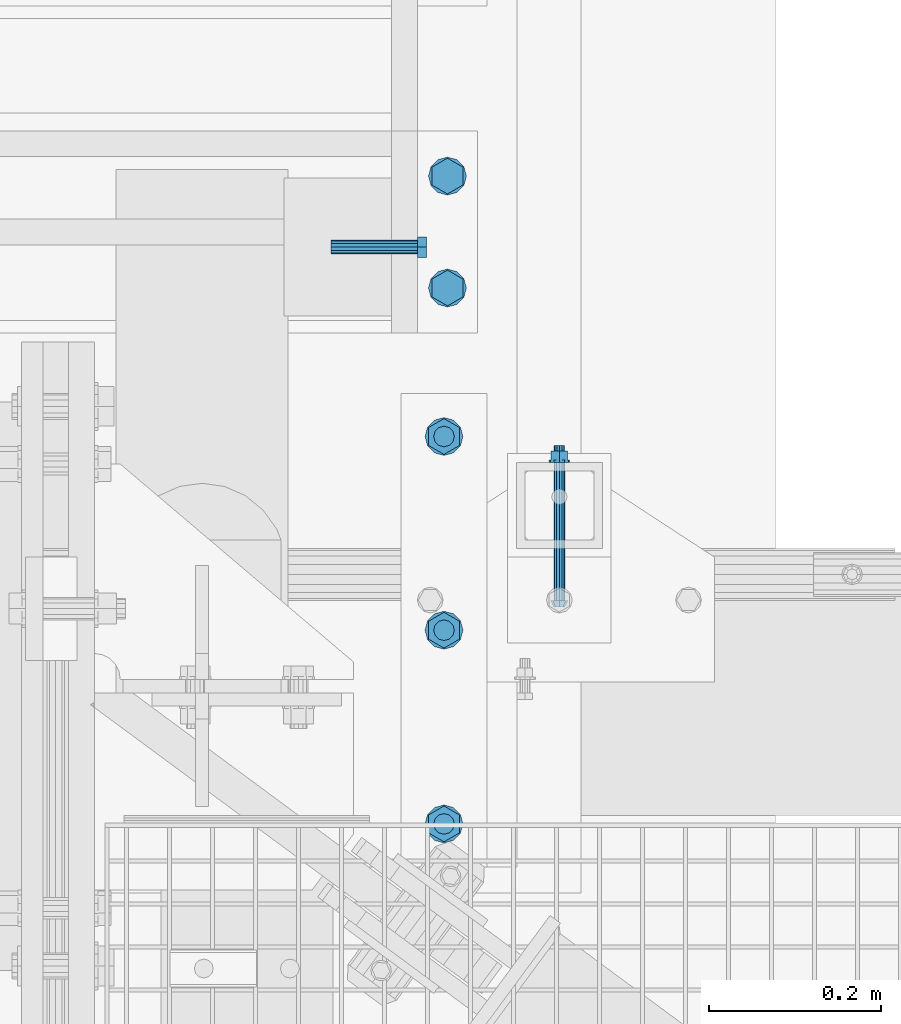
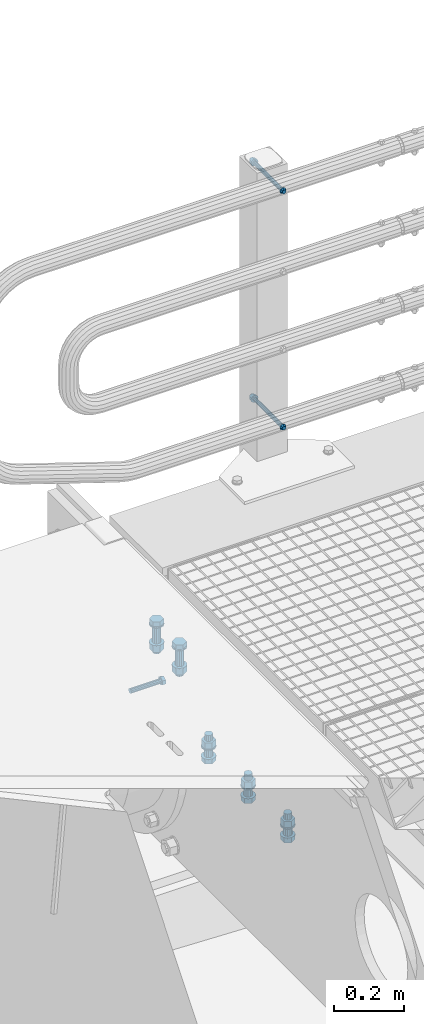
# One storey, part 34 of 1530: 5 mechanical fasteners.
"""IFC2X3 building model written with IfcOpenShell, lengths in millimetres."""

import ifcopenshell
import ifcopenshell.guid

model = None  # the IFC model being written
_history = None  # IfcOwnerHistory: only IFC2X3 demands one
_inside = {}  # id of a spatial element -> (the spatial element, [elements in it])
_under = {}  # id of a project, library or spatial element -> (it, [spatial elements below it])
_declared = {}  # id of a project -> (the project, [libraries it declares])
_typed = {}  # id of a type object -> (the type object, [elements of that type])
_made_of = {}  # id of a material, layer set ... -> (it, [elements and type objects made of it])


def new_model(schema):
    """Start an empty IFC model of exactly this schema.

    Asked for "IFC4X3", IfcOpenShell would pick the latest addendum, in which some entities
    have other attributes; the version numbers below select the first issue.
    IFC2X3 requires an IfcOwnerHistory on every rooted entity: one is made here for all.
    """
    global model, _history
    if schema == "IFC4X3":
        model = ifcopenshell.file(schema_version=(4, 3, 0, 0))
    else:
        model = ifcopenshell.file(schema=schema)
    _inside.clear()
    _under.clear()
    _declared.clear()
    _typed.clear()
    _made_of.clear()
    _history = None
    if model.schema == "IFC2X3":
        org = make("IfcOrganization", Name="unknown")
        user = make(
            "IfcPersonAndOrganization",
            ThePerson=make("IfcPerson", FamilyName="unknown"),
            TheOrganization=org,
        )
        app = make(
            "IfcApplication",
            ApplicationDeveloper=org,
            Version="unknown",
            ApplicationFullName="unknown",
            ApplicationIdentifier="unknown",
        )
        _history = make(
            "IfcOwnerHistory",
            OwningUser=user,
            OwningApplication=app,
            ChangeAction="ADDED",
            CreationDate=0,
        )
    return model


def make(cls, **values):
    """One entity of the class cls with the attributes given. An attribute that is None is left unset."""
    return model.create_entity(
        cls, **{name: value for name, value in values.items() if value is not None}
    )


def rooted(cls, **values):
    """An entity with a GlobalId (a new one), such as an element, a storey or a relation."""
    return make(cls, GlobalId=ifcopenshell.guid.new(), OwnerHistory=_history, **values)


def si_unit(unit_type, name, prefix=None):
    """IfcSIUnit, for example si_unit("LENGTHUNIT", "METRE", prefix="MILLI")."""
    return make("IfcSIUnit", UnitType=unit_type, Prefix=prefix, Name=name)


def assignment(units):
    """IfcUnitAssignment: the units of a project."""
    return None if units is None else make("IfcUnitAssignment", Units=units)


def point(xyz):
    """IfcCartesianPoint."""
    return None if xyz is None else make("IfcCartesianPoint", Coordinates=xyz)


def direction(xyz):
    """IfcDirection."""
    return None if xyz is None else make("IfcDirection", DirectionRatios=xyz)


def frame(location, z_axis=None, x_axis=None):
    """IfcAxis2Placement3D, a coordinate frame: its origin and axes. An axis left out is left unset."""
    return make(
        "IfcAxis2Placement3D",
        Location=point(location),
        Axis=direction(z_axis),
        RefDirection=direction(x_axis),
    )


def origin_with_axes():
    """The frame at (0, 0, 0) with the z axis (0, 0, 1) and the x axis (1, 0, 0) written out."""
    return frame((0.0, 0.0, 0.0), z_axis=(0.0, 0.0, 1.0), x_axis=(1.0, 0.0, 0.0))


def place(relative_to, where):
    """IfcLocalPlacement: puts the frame where relative to a parent placement (None: the world)."""
    return make(
        "IfcLocalPlacement", PlacementRelTo=relative_to, RelativePlacement=where
    )


def context(
    kind, dimensions, precision=None, world=None, true_north=None, identifier=None
):
    """IfcGeometricRepresentationContext, for example the 3D "Model" context."""
    return make(
        "IfcGeometricRepresentationContext",
        ContextIdentifier=identifier,
        ContextType=kind,
        CoordinateSpaceDimension=dimensions,
        Precision=precision,
        WorldCoordinateSystem=world,
        TrueNorth=true_north,
    )


def subcontext(parent, identifier, kind, view, scale=None):
    """IfcGeometricRepresentationSubContext, for example "Body" below "Model"."""
    return make(
        "IfcGeometricRepresentationSubContext",
        ContextIdentifier=identifier,
        ContextType=kind,
        ParentContext=parent,
        TargetScale=scale,
        TargetView=view,
    )


def project(units=None, contexts=None):
    """IfcProject with its units and contexts."""
    return rooted(
        "IfcProject",
        Name="project",
        RepresentationContexts=contexts,
        UnitsInContext=assignment(units),
    )


def spatial(cls, under=None, at=None, **own):
    """A site, building, storey or space (cls), placed at a placement, below another one or the project."""
    s = rooted(cls, ObjectPlacement=at, **own)
    if under is not None:
        _under.setdefault(under.id(), (under, []))[1].append(s)
    return s


def faces_of(points, faces, orient=None, outer=None):
    """IfcFace entities. A face is a list of loops; a loop is a list of indices into points, from 0.

    orient and outer hold one flag for each loop. By default every Orientation is true, the
    first loop of a face is its IfcFaceOuterBound and the others are IfcFaceBound.
    """
    made = []
    for i, loops in enumerate(faces):
        bounds = []
        for j, loop in enumerate(loops):
            is_outer = j == 0 if outer is None else outer[i][j]
            bounds.append(
                make(
                    "IfcFaceOuterBound" if is_outer else "IfcFaceBound",
                    Bound=make("IfcPolyLoop", Polygon=[points[k] for k in loop]),
                    Orientation=True if orient is None else orient[i][j],
                )
            )
        made.append(make("IfcFace", Bounds=bounds))
    return made


def faceted_brep(points, faces, orient=None, outer=None, voids=None):
    """IfcFacetedBrep: a solid bounded by flat faces; with voids (closed shells), ...WithVoids."""
    shared = [point(p) for p in points]
    hull = make("IfcClosedShell", CfsFaces=faces_of(shared, faces, orient, outer))
    if voids is None:
        return make("IfcFacetedBrep", Outer=hull)
    return make(
        "IfcFacetedBrepWithVoids",
        Outer=hull,
        Voids=[
            make(cls, CfsFaces=faces_of(shared, fs, o, b)) for cls, fs, o, b in voids
        ],
    )


def shape(context_of_items, identifier, shape_type, items):
    """IfcShapeRepresentation: the items that make up one representation, for example the "Body"."""
    return make(
        "IfcShapeRepresentation",
        ContextOfItems=context_of_items,
        RepresentationIdentifier=identifier,
        RepresentationType=shape_type,
        Items=items,
    )


def source(mapping_origin, context_of_items, identifier, shape_type, items):
    """IfcRepresentationMap: a shape defined once, which mapped items show again and again."""
    return make(
        "IfcRepresentationMap",
        MappingOrigin=mapping_origin,
        MappedRepresentation=shape(context_of_items, identifier, shape_type, items),
    )


def transform(
    local_origin,
    x_axis=None,
    y_axis=None,
    z_axis=None,
    scale=None,
    scale2=None,
    scale3=None,
    uniform=True,
):
    """IfcCartesianTransformationOperator3D, or its non-uniform kind. x_axis, y_axis, z_axis: its Axis1, 2, 3."""
    if uniform:
        return make(
            "IfcCartesianTransformationOperator3D",
            Axis1=direction(x_axis),
            Axis2=direction(y_axis),
            LocalOrigin=point(local_origin),
            Scale=scale,
            Axis3=direction(z_axis),
        )
    return make(
        "IfcCartesianTransformationOperator3DnonUniform",
        Axis1=direction(x_axis),
        Axis2=direction(y_axis),
        LocalOrigin=point(local_origin),
        Scale=scale,
        Axis3=direction(z_axis),
        Scale2=scale2,
        Scale3=scale3,
    )


def mapped(mapping_source, mapping_target):
    """IfcMappedItem: shows the shape of a source again, moved by a transform."""
    return make(
        "IfcMappedItem", MappingSource=mapping_source, MappingTarget=mapping_target
    )


def material(Name=None, Category=None):
    """IfcMaterial."""
    return make("IfcMaterial", Name=Name, Category=Category)


def made_of(thing, what):
    """Note that an element or type object is made of a material, layer set ...; save() writes the relation."""
    if what is not None:
        _made_of.setdefault(what.id(), (what, []))[1].append(thing)
    return thing


def type_object(cls, material=None, **own):
    """A type object (cls), such as IfcWallType, which elements share."""
    return made_of(rooted(cls, **own), material)


def element(
    cls,
    number,
    at=None,
    inside=None,
    cuts=None,
    type_object=None,
    material=None,
    context=None,
    identifier="Body",
    shape_type=None,
    held_by="IfcProductDefinitionShape",
    body=None,
    shapes=None,
    **own,
):
    """One element of the class cls, such as IfcWall. Its Tag is "e" and its number.

    at: its placement. inside: the storey or other place that contains it. cuts: it is an
    opening in that element (IfcRelVoidsElement). A single representation is given by context,
    identifier, shape_type and body (its items); several are given by shapes. held_by: the class
    of the entity that holds the representations. save() writes the other relations.
    """
    e = rooted(cls, Tag="e%d" % number, ObjectPlacement=at, **own)
    if body is not None:
        shapes = [shape(context, identifier, shape_type, body)]
    if shapes is not None:
        e.Representation = make(held_by, Representations=shapes)
    if inside is not None:
        _inside.setdefault(inside.id(), (inside, []))[1].append(e)
    if cuts is not None:
        rooted(
            "IfcRelVoidsElement", RelatingBuildingElement=cuts, RelatedOpeningElement=e
        )
    if type_object is not None:
        _typed.setdefault(type_object.id(), (type_object, []))[1].append(e)
    return made_of(e, material)


def aggregate(whole, parts):
    """IfcRelAggregates: a whole, such as a stair, and the parts it consists of."""
    return rooted("IfcRelAggregates", RelatingObject=whole, RelatedObjects=parts)


def save(model, path):
    """Write the relations noted so far, then the file.

    IfcRelAggregates (storeys below a building ...), IfcRelContainedInSpatialStructure (elements
    in a storey), IfcRelDefinesByType, IfcRelAssociatesMaterial and IfcRelDeclares: one each for
    every whole, place, type object, material and project.
    """
    for whole, parts in _under.values():
        aggregate(whole, parts)
    for where, things in _inside.values():
        rooted(
            "IfcRelContainedInSpatialStructure",
            RelatedElements=things,
            RelatingStructure=where,
        )
    for kind, things in _typed.values():
        rooted("IfcRelDefinesByType", RelatedObjects=things, RelatingType=kind)
    for what, things in _made_of.values():
        rooted("IfcRelAssociatesMaterial", RelatedObjects=things, RelatingMaterial=what)
    for by, libraries in _declared.values():
        rooted("IfcRelDeclares", RelatingContext=by, RelatedDefinitions=libraries)
    model.write(path)


model = new_model("IFC2X3")

# Units and contexts
model_context = context("Model", 3, precision=1e-05, world=origin_with_axes())
body_context = subcontext(model_context, "Body", "Model", "MODEL_VIEW")
ifc_project = project(units=[si_unit("LENGTHUNIT", "METRE", prefix="MILLI"), si_unit("AREAUNIT", "SQUARE_METRE"), si_unit("VOLUMEUNIT", "CUBIC_METRE"), si_unit("MASSUNIT", "GRAM", prefix="KILO"), si_unit("TIMEUNIT", "SECOND"), si_unit("PLANEANGLEUNIT", "RADIAN"), si_unit("SOLIDANGLEUNIT", "STERADIAN"), si_unit("THERMODYNAMICTEMPERATUREUNIT", "DEGREE_CELSIUS"), si_unit("LUMINOUSINTENSITYUNIT", "LUMEN")], contexts=[model_context])

# Site, building, storey
site_placement = place(None, origin_with_axes())
site = spatial("IfcSite", under=ifc_project, at=site_placement, Name="Brattvåg", CompositionType="ELEMENT")
building_placement = place(site_placement, origin_with_axes())
building = spatial("IfcBuilding", under=site, at=building_placement, Name="Undefined", CompositionType="ELEMENT")
storey_placement = place(building_placement, origin_with_axes())
storey = spatial("IfcBuildingStorey", under=building, at=storey_placement, Name="Undefined", CompositionType="ELEMENT", Elevation=0.0)

# Mechanical fasteners
ifc_material = material(Name="8")
mechanical_fastener_type = type_object("IfcMechanicalFastenerType", Name="Bolt assembly")
shared_shape_1 = source(origin_with_axes(), body_context, "Body", "Brep", [
    faceted_brep([(20.7846096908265, -49.0000000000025, 0.0), (10.3923048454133, -49.0000000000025, 18.0), (-10.3923048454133, -49.0000000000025, 18.0), (-20.7846096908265, -49.0000000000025, 2.54538057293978e-15), (-10.3923048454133, -49.0000000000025, -18.0), (10.3923048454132, -49.0000000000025, -18.0), (10.3923048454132, -34.0000000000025, -18.0), (-10.3923048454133, -34.0000000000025, -18.0), (-20.7846096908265, -34.0000000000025, 2.54538057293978e-15), (-10.3923048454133, -34.0000000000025, 18.0), (10.3923048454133, -34.0000000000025, 18.0), (20.7846096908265, -34.0000000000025, 0.0), (12.0, -34.0000000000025, 0.0), (10.3923048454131, -34.0000000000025, 6.00000000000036), (5.99999999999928, -34.0000000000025, 10.3923048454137), (-1.24360317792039e-12, -34.0000000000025, 12.0), (-6.00000000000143, -34.0000000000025, 10.3923048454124), (-10.3923048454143, -34.0000000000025, 5.99999999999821), (-12.0, -34.0000000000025, -2.48720635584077e-12), (-10.3923048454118, -34.0000000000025, -6.00000000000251), (-5.99999999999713, -34.0000000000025, -10.3923048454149), (3.71748685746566e-12, -34.0000000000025, -12.0), (6.00000000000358, -34.0000000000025, -10.3923048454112), (10.3923048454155, -34.0000000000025, -5.99999999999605), (10.3923048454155, 65.9999999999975, -5.99999999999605), (6.00000000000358, 65.9999999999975, -10.3923048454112), (3.71748685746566e-12, 65.9999999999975, -12.0), (-5.99999999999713, 65.9999999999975, -10.3923048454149), (-10.3923048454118, 65.9999999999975, -6.00000000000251), (-12.0, 65.9999999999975, -2.48720635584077e-12), (-10.3923048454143, 65.9999999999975, 5.99999999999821), (-6.00000000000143, 65.9999999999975, 10.3923048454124), (-1.24360317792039e-12, 65.9999999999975, 12.0), (5.99999999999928, 65.9999999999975, 10.3923048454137), (10.3923048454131, 65.9999999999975, 6.00000000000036), (12.0, 65.9999999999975, 0.0), (22.0, -34.0000000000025, 0.0), (19.0525588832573, -34.0000000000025, 11.0000000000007), (10.9999999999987, -34.0000000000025, 19.0525588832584), (-2.27993915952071e-12, -34.0000000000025, 22.0), (-11.0000000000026, -34.0000000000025, 19.0525588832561), (-19.0525588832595, -34.0000000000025, 10.9999999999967), (-22.0, -34.0000000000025, -4.55987831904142e-12), (-19.052558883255, -34.0000000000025, -11.0000000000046), (-10.9999999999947, -34.0000000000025, -19.0525588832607), (6.81539257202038e-12, -34.0000000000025, -22.0), (11.0000000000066, -34.0000000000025, -19.0525588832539), (19.0525588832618, -34.0000000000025, -10.9999999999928), (19.0525588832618, -30.0000000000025, -10.9999999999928), (11.0000000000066, -30.0000000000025, -19.0525588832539), (6.81539257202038e-12, -30.0000000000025, -22.0), (-10.9999999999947, -30.0000000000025, -19.0525588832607), (-19.052558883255, -30.0000000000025, -11.0000000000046), (-22.0, -30.0000000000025, -4.55987831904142e-12), (-19.0525588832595, -30.0000000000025, 10.9999999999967), (-11.0000000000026, -30.0000000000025, 19.0525588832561), (-2.27993915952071e-12, -30.0000000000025, 22.0), (10.9999999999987, -30.0000000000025, 19.0525588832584), (19.0525588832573, -30.0000000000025, 11.0000000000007), (22.0, -30.0000000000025, 0.0), (22.0, 29.9999999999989, 0.0), (19.0525588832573, 29.9999999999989, 11.0000000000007), (10.9999999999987, 29.9999999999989, 19.0525588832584), (-2.27993915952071e-12, 29.9999999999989, 22.0), (-11.0000000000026, 29.9999999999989, 19.0525588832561), (-19.0525588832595, 29.9999999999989, 10.9999999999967), (-22.0, 29.9999999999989, -4.55987831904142e-12), (-19.052558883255, 29.9999999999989, -11.0000000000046), (-10.9999999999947, 29.9999999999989, -19.0525588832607), (6.81539257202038e-12, 29.9999999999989, -22.0), (11.0000000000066, 29.9999999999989, -19.0525588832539), (19.0525588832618, 29.9999999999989, -10.9999999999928), (19.0525588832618, 33.9999999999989, -10.9999999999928), (11.0000000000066, 33.9999999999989, -19.0525588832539), (6.81539257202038e-12, 33.9999999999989, -22.0), (-10.9999999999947, 33.9999999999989, -19.0525588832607), (-19.052558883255, 33.9999999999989, -11.0000000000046), (-22.0, 33.9999999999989, -4.55987831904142e-12), (-19.0525588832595, 33.9999999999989, 10.9999999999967), (-11.0000000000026, 33.9999999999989, 19.0525588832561), (-2.27993915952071e-12, 33.9999999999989, 22.0), (10.9999999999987, 33.9999999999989, 19.0525588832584), (19.0525588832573, 33.9999999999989, 11.0000000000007), (22.0, 33.9999999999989, 0.0), (20.7846096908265, 33.9999999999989, 0.0), (10.3923048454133, 33.9999999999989, 18.0), (-10.3923048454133, 33.9999999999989, 18.0), (-20.7846096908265, 33.9999999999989, 2.54538057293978e-15), (-10.3923048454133, 33.9999999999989, -18.0), (10.3923048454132, 33.9999999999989, -18.0), (10.3923048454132, 55.4999999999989, -18.0), (-10.3923048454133, 55.4999999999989, -18.0), (-20.7846096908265, 55.4999999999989, 2.54538057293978e-15), (-10.3923048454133, 55.4999999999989, 18.0), (10.3923048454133, 55.4999999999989, 18.0), (20.7846096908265, 55.4999999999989, 0.0)], [[[0, 1, 2, 3, 4, 5]], [[6, 7, 8, 9, 10, 11]], [[0, 11, 10, 1]], [[1, 10, 9, 2]], [[2, 9, 8, 3]], [[3, 8, 7, 4]], [[4, 7, 6, 5]], [[5, 6, 11, 0]], [[12, 13, 14, 15, 16, 17, 18, 19, 20, 21, 22, 23]], [[24, 25, 26, 27, 28, 29, 30, 31, 32, 33, 34, 35]], [[12, 35, 34, 13]], [[13, 34, 33, 14]], [[14, 33, 32, 15]], [[15, 32, 31, 16]], [[16, 31, 30, 17]], [[17, 30, 29, 18]], [[18, 29, 28, 19]], [[19, 28, 27, 20]], [[20, 27, 26, 21]], [[21, 26, 25, 22]], [[22, 25, 24, 23]], [[23, 24, 35, 12]], [[36, 37, 38, 39, 40, 41, 42, 43, 44, 45, 46, 47]], [[48, 49, 50, 51, 52, 53, 54, 55, 56, 57, 58, 59]], [[36, 59, 58, 37]], [[37, 58, 57, 38]], [[38, 57, 56, 39]], [[39, 56, 55, 40]], [[40, 55, 54, 41]], [[41, 54, 53, 42]], [[42, 53, 52, 43]], [[43, 52, 51, 44]], [[44, 51, 50, 45]], [[45, 50, 49, 46]], [[46, 49, 48, 47]], [[47, 48, 59, 36]], [[60, 61, 62, 63, 64, 65, 66, 67, 68, 69, 70, 71]], [[72, 73, 74, 75, 76, 77, 78, 79, 80, 81, 82, 83]], [[60, 83, 82, 61]], [[61, 82, 81, 62]], [[62, 81, 80, 63]], [[63, 80, 79, 64]], [[64, 79, 78, 65]], [[65, 78, 77, 66]], [[66, 77, 76, 67]], [[67, 76, 75, 68]], [[68, 75, 74, 69]], [[69, 74, 73, 70]], [[70, 73, 72, 71]], [[71, 72, 83, 60]], [[84, 85, 86, 87, 88, 89]], [[90, 91, 92, 93, 94, 95]], [[84, 95, 94, 85]], [[85, 94, 93, 86]], [[86, 93, 92, 87]], [[87, 92, 91, 88]], [[88, 91, 90, 89]], [[89, 90, 95, 84]]]),
    faceted_brep([(13.0, -29.9000000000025, 0.0), (11.2583302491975, -29.9000000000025, 6.50000000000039), (6.49999999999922, -29.9000000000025, 11.2583302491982), (-1.34723677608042e-12, -29.9000000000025, 13.0), (-6.50000000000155, -29.9000000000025, 11.2583302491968), (-11.2583302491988, -29.9000000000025, 6.49999999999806), (-13.0, -29.9000000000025, -2.69447355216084e-12), (-11.2583302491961, -29.9000000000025, -6.50000000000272), (-6.4999999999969, -29.9000000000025, -11.2583302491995), (4.02727742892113e-12, -29.9000000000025, -13.0), (6.50000000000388, -29.9000000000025, -11.2583302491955), (11.2583302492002, -29.9000000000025, -6.49999999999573), (11.2583302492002, 0.0999999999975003, -6.49999999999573), (6.50000000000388, 0.0999999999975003, -11.2583302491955), (4.02727742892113e-12, 0.0999999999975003, -13.0), (-6.4999999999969, 0.0999999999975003, -11.2583302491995), (-11.2583302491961, 0.0999999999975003, -6.50000000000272), (-13.0, 0.0999999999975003, -2.69447355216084e-12), (-11.2583302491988, 0.0999999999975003, 6.49999999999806), (-6.50000000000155, 0.0999999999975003, 11.2583302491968), (-1.34723677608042e-12, 0.0999999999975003, 13.0), (6.49999999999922, 0.0999999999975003, 11.2583302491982), (11.2583302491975, 0.0999999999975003, 6.50000000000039), (13.0, 0.0999999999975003, 0.0), (13.0, -0.100000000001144, 0.0), (11.2583302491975, -0.100000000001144, 6.50000000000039), (6.49999999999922, -0.100000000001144, 11.2583302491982), (-1.34723677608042e-12, -0.100000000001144, 13.0), (-6.50000000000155, -0.100000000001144, 11.2583302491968), (-11.2583302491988, -0.100000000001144, 6.49999999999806), (-13.0, -0.100000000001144, -2.69447355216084e-12), (-11.2583302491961, -0.100000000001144, -6.50000000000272), (-6.4999999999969, -0.100000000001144, -11.2583302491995), (4.02727742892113e-12, -0.100000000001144, -13.0), (6.50000000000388, -0.100000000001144, -11.2583302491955), (11.2583302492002, -0.100000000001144, -6.49999999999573), (11.2583302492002, 29.9999999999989, -6.49999999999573), (6.50000000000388, 29.9999999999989, -11.2583302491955), (4.02727742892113e-12, 29.9999999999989, -13.0), (-6.4999999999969, 29.9999999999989, -11.2583302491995), (-11.2583302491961, 29.9999999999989, -6.50000000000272), (-13.0, 29.9999999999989, -2.69447355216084e-12), (-11.2583302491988, 29.9999999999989, 6.49999999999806), (-6.50000000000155, 29.9999999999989, 11.2583302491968), (-1.34723677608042e-12, 29.9999999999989, 13.0), (6.49999999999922, 29.9999999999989, 11.2583302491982), (11.2583302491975, 29.9999999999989, 6.50000000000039), (13.0, 29.9999999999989, 0.0)], [[[0, 1, 2, 3, 4, 5, 6, 7, 8, 9, 10, 11]], [[12, 13, 14, 15, 16, 17, 18, 19, 20, 21, 22, 23]], [[0, 23, 22, 1]], [[1, 22, 21, 2]], [[2, 21, 20, 3]], [[3, 20, 19, 4]], [[4, 19, 18, 5]], [[5, 18, 17, 6]], [[6, 17, 16, 7]], [[7, 16, 15, 8]], [[8, 15, 14, 9]], [[9, 14, 13, 10]], [[10, 13, 12, 11]], [[11, 12, 23, 0]], [[24, 25, 26, 27, 28, 29, 30, 31, 32, 33, 34, 35]], [[36, 37, 38, 39, 40, 41, 42, 43, 44, 45, 46, 47]], [[24, 47, 46, 25]], [[25, 46, 45, 26]], [[26, 45, 44, 27]], [[27, 44, 43, 28]], [[28, 43, 42, 29]], [[29, 42, 41, 30]], [[30, 41, 40, 31]], [[31, 40, 39, 32]], [[32, 39, 38, 33]], [[33, 38, 37, 34]], [[34, 37, 36, 35]], [[35, 36, 47, 24]]]),
])
mechanical_fastener_1_placement = place(storey_placement, frame((420.000171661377, 9592.49893188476, -817.999973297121), z_axis=(1.0, 0.0, 0.0), x_axis=(0.0, -1.0, 0.0)))
element("IfcMechanicalFastener", 1, at=mechanical_fastener_1_placement, inside=storey, type_object=mechanical_fastener_type, material=ifc_material, Name="Bolt assembly", NominalDiameter=24.0, NominalLength=100.0, context=body_context, shape_type="MappedRepresentation", body=[
    mapped(shared_shape_1, transform((0.0, 0.0, 0.0))),
    mapped(shared_shape_1, transform((130.0, 0.0, 0.0))),
])
shared_shape_2 = source(origin_with_axes(), body_context, "Body", "Brep", [
    faceted_brep([(20.7846096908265, -49.0000000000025, 0.0), (10.3923048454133, -49.0000000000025, 18.0), (-10.3923048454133, -49.0000000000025, 18.0), (-20.7846096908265, -49.0000000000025, 2.54538057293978e-15), (-10.3923048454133, -49.0000000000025, -18.0), (10.3923048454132, -49.0000000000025, -18.0), (10.3923048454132, -34.0000000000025, -18.0), (-10.3923048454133, -34.0000000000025, -18.0), (-20.7846096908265, -34.0000000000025, 2.54538057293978e-15), (-10.3923048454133, -34.0000000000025, 18.0), (10.3923048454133, -34.0000000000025, 18.0), (20.7846096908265, -34.0000000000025, 0.0), (12.0, -34.0000000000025, 0.0), (10.3923048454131, -34.0000000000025, 6.00000000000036), (5.99999999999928, -34.0000000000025, 10.3923048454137), (-1.24360317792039e-12, -34.0000000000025, 12.0), (-6.00000000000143, -34.0000000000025, 10.3923048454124), (-10.3923048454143, -34.0000000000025, 5.99999999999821), (-12.0, -34.0000000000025, -2.48720635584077e-12), (-10.3923048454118, -34.0000000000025, -6.00000000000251), (-5.99999999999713, -34.0000000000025, -10.3923048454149), (3.71748685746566e-12, -34.0000000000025, -12.0), (6.00000000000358, -34.0000000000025, -10.3923048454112), (10.3923048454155, -34.0000000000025, -5.99999999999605), (10.3923048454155, 46.0, -5.99999999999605), (6.00000000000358, 46.0, -10.3923048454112), (3.71748685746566e-12, 46.0, -12.0), (-5.99999999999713, 46.0, -10.3923048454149), (-10.3923048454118, 46.0, -6.00000000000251), (-12.0, 46.0, -2.48720635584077e-12), (-10.3923048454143, 46.0, 5.99999999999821), (-6.00000000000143, 46.0, 10.3923048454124), (-1.24360317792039e-12, 46.0, 12.0), (5.99999999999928, 46.0, 10.3923048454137), (10.3923048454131, 46.0, 6.00000000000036), (12.0, 46.0, 0.0), (22.0, -34.0000000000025, 0.0), (19.0525588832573, -34.0000000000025, 11.0000000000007), (10.9999999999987, -34.0000000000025, 19.0525588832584), (-2.27993915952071e-12, -34.0000000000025, 22.0), (-11.0000000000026, -34.0000000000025, 19.0525588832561), (-19.0525588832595, -34.0000000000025, 10.9999999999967), (-22.0, -34.0000000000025, -4.55987831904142e-12), (-19.052558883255, -34.0000000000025, -11.0000000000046), (-10.9999999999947, -34.0000000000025, -19.0525588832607), (6.81539257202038e-12, -34.0000000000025, -22.0), (11.0000000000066, -34.0000000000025, -19.0525588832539), (19.0525588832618, -34.0000000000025, -10.9999999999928), (19.0525588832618, -30.0000000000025, -10.9999999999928), (11.0000000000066, -30.0000000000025, -19.0525588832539), (6.81539257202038e-12, -30.0000000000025, -22.0), (-10.9999999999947, -30.0000000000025, -19.0525588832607), (-19.052558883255, -30.0000000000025, -11.0000000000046), (-22.0, -30.0000000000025, -4.55987831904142e-12), (-19.0525588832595, -30.0000000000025, 10.9999999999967), (-11.0000000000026, -30.0000000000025, 19.0525588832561), (-2.27993915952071e-12, -30.0000000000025, 22.0), (10.9999999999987, -30.0000000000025, 19.0525588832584), (19.0525588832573, -30.0000000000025, 11.0000000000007), (22.0, -30.0000000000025, 0.0), (22.0, 0.0, 0.0), (19.0525588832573, 0.0, 11.0000000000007), (10.9999999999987, 0.0, 19.0525588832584), (-2.27993915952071e-12, 0.0, 22.0), (-11.0000000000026, 0.0, 19.0525588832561), (-19.0525588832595, 0.0, 10.9999999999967), (-22.0, 0.0, -4.55987831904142e-12), (-19.052558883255, 0.0, -11.0000000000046), (-10.9999999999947, 0.0, -19.0525588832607), (6.81539257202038e-12, 0.0, -22.0), (11.0000000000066, 0.0, -19.0525588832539), (19.0525588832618, 0.0, -10.9999999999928), (19.0525588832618, 4.0, -10.9999999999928), (11.0000000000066, 4.0, -19.0525588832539), (6.81539257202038e-12, 4.0, -22.0), (-10.9999999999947, 4.0, -19.0525588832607), (-19.052558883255, 4.0, -11.0000000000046), (-22.0, 4.0, -4.55987831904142e-12), (-19.0525588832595, 4.0, 10.9999999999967), (-11.0000000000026, 4.0, 19.0525588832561), (-2.27993915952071e-12, 4.0, 22.0), (10.9999999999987, 4.0, 19.0525588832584), (19.0525588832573, 4.0, 11.0000000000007), (22.0, 4.0, 0.0), (20.7846096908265, 4.0, 0.0), (10.3923048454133, 4.0, 18.0), (-10.3923048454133, 4.0, 18.0), (-20.7846096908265, 4.0, 2.54538057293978e-15), (-10.3923048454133, 4.0, -18.0), (10.3923048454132, 4.0, -18.0), (10.3923048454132, 25.5, -18.0), (-10.3923048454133, 25.5, -18.0), (-20.7846096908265, 25.5, 2.54538057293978e-15), (-10.3923048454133, 25.5, 18.0), (10.3923048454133, 25.5, 18.0), (20.7846096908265, 25.5, 0.0)], [[[0, 1, 2, 3, 4, 5]], [[6, 7, 8, 9, 10, 11]], [[0, 11, 10, 1]], [[1, 10, 9, 2]], [[2, 9, 8, 3]], [[3, 8, 7, 4]], [[4, 7, 6, 5]], [[5, 6, 11, 0]], [[12, 13, 14, 15, 16, 17, 18, 19, 20, 21, 22, 23]], [[24, 25, 26, 27, 28, 29, 30, 31, 32, 33, 34, 35]], [[12, 35, 34, 13]], [[13, 34, 33, 14]], [[14, 33, 32, 15]], [[15, 32, 31, 16]], [[16, 31, 30, 17]], [[17, 30, 29, 18]], [[18, 29, 28, 19]], [[19, 28, 27, 20]], [[20, 27, 26, 21]], [[21, 26, 25, 22]], [[22, 25, 24, 23]], [[23, 24, 35, 12]], [[36, 37, 38, 39, 40, 41, 42, 43, 44, 45, 46, 47]], [[48, 49, 50, 51, 52, 53, 54, 55, 56, 57, 58, 59]], [[36, 59, 58, 37]], [[37, 58, 57, 38]], [[38, 57, 56, 39]], [[39, 56, 55, 40]], [[40, 55, 54, 41]], [[41, 54, 53, 42]], [[42, 53, 52, 43]], [[43, 52, 51, 44]], [[44, 51, 50, 45]], [[45, 50, 49, 46]], [[46, 49, 48, 47]], [[47, 48, 59, 36]], [[60, 61, 62, 63, 64, 65, 66, 67, 68, 69, 70, 71]], [[72, 73, 74, 75, 76, 77, 78, 79, 80, 81, 82, 83]], [[60, 83, 82, 61]], [[61, 82, 81, 62]], [[62, 81, 80, 63]], [[63, 80, 79, 64]], [[64, 79, 78, 65]], [[65, 78, 77, 66]], [[66, 77, 76, 67]], [[67, 76, 75, 68]], [[68, 75, 74, 69]], [[69, 74, 73, 70]], [[70, 73, 72, 71]], [[71, 72, 83, 60]], [[84, 85, 86, 87, 88, 89]], [[90, 91, 92, 93, 94, 95]], [[84, 95, 94, 85]], [[85, 94, 93, 86]], [[86, 93, 92, 87]], [[87, 92, 91, 88]], [[88, 91, 90, 89]], [[89, 90, 95, 84]]]),
    faceted_brep([(13.0, -30.0, 0.0), (11.2583302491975, -30.0, 6.50000000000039), (6.49999999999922, -30.0, 11.2583302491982), (-1.34723677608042e-12, -30.0, 13.0), (-6.50000000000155, -30.0, 11.2583302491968), (-11.2583302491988, -30.0, 6.49999999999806), (-13.0, -30.0, -2.69447355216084e-12), (-11.2583302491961, -30.0, -6.50000000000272), (-6.4999999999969, -30.0, -11.2583302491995), (4.02727742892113e-12, -30.0, -13.0), (6.50000000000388, -30.0, -11.2583302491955), (11.2583302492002, -30.0, -6.49999999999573), (11.2583302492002, 0.0999999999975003, -6.49999999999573), (6.50000000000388, 0.0999999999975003, -11.2583302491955), (4.02727742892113e-12, 0.0999999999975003, -13.0), (-6.4999999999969, 0.0999999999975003, -11.2583302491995), (-11.2583302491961, 0.0999999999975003, -6.50000000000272), (-13.0, 0.0999999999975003, -2.69447355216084e-12), (-11.2583302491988, 0.0999999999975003, 6.49999999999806), (-6.50000000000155, 0.0999999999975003, 11.2583302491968), (-1.34723677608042e-12, 0.0999999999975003, 13.0), (6.49999999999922, 0.0999999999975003, 11.2583302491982), (11.2583302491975, 0.0999999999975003, 6.50000000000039), (13.0, 0.0999999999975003, 0.0)], [[[0, 1, 2, 3, 4, 5, 6, 7, 8, 9, 10, 11]], [[12, 13, 14, 15, 16, 17, 18, 19, 20, 21, 22, 23]], [[0, 23, 22, 1]], [[1, 22, 21, 2]], [[2, 21, 20, 3]], [[3, 20, 19, 4]], [[4, 19, 18, 5]], [[5, 18, 17, 6]], [[6, 17, 16, 7]], [[7, 16, 15, 8]], [[8, 15, 14, 9]], [[9, 14, 13, 10]], [[10, 13, 12, 11]], [[11, 12, 23, 0]]]),
])
mechanical_fastener_2_placement = place(storey_placement, frame((416.009799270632, 8839.99881744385, -1028.00001144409), z_axis=(1.0, 0.0, 0.0), x_axis=(0.0, 1.0, 0.0)))
element("IfcMechanicalFastener", 2, at=mechanical_fastener_2_placement, inside=storey, type_object=mechanical_fastener_type, material=ifc_material, Name="Bolt assembly", NominalDiameter=24.0, NominalLength=80.0, context=body_context, shape_type="MappedRepresentation", body=[
    mapped(shared_shape_2, transform((0.0, 0.0, 0.0))),
    mapped(shared_shape_2, transform((225.0, 0.0, 0.0))),
    mapped(shared_shape_2, transform((450.0, 0.0, 0.0))),
])
shared_shape_3 = source(origin_with_axes(), body_context, "Body", "Brep", [
    faceted_brep([(13.856406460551, -10.56, 0.0), (6.92820323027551, -10.56, 12.0), (-6.92820323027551, -10.56, 12.0), (-13.856406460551, -10.56, 1.69692038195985e-15), (-6.92820323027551, -10.56, -12.0), (6.9282032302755, -10.56, -12.0), (6.9282032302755, 0.0, -12.0), (-6.92820323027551, 0.0, -12.0), (-13.856406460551, 0.0, 1.69692038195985e-15), (-6.92820323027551, 0.0, 12.0), (6.92820323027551, 0.0, 12.0), (13.856406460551, 0.0, 0.0), (8.0, 0.0, 0.0), (6.92820323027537, 0.0, 4.00000000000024), (3.99999999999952, 0.0, 6.92820323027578), (-8.29068785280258e-13, 0.0, 8.0), (-4.00000000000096, 0.0, 6.92820323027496), (-6.9282032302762, 0.0, 3.99999999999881), (-8.0, 0.0, -1.65813757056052e-12), (-6.92820323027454, 0.0, -4.00000000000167), (-3.99999999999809, 0.0, -6.92820323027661), (2.47832457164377e-12, 0.0, -8.0), (4.00000000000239, 0.0, -6.92820323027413), (6.92820323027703, 0.0, -3.99999999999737), (6.92820323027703, 100.0, -3.99999999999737), (4.00000000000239, 100.0, -6.92820323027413), (2.47832457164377e-12, 100.0, -8.0), (-3.99999999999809, 100.0, -6.92820323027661), (-6.92820323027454, 100.0, -4.00000000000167), (-8.0, 100.0, -1.65813757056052e-12), (-6.9282032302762, 100.0, 3.99999999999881), (-4.00000000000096, 100.0, 6.92820323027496), (-8.29068785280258e-13, 100.0, 8.0), (3.99999999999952, 100.0, 6.92820323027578), (6.92820323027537, 100.0, 4.00000000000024), (8.0, 100.0, 0.0)], [[[0, 1, 2, 3, 4, 5]], [[6, 7, 8, 9, 10, 11]], [[0, 11, 10, 1]], [[1, 10, 9, 2]], [[2, 9, 8, 3]], [[3, 8, 7, 4]], [[4, 7, 6, 5]], [[5, 6, 11, 0]], [[12, 13, 14, 15, 16, 17, 18, 19, 20, 21, 22, 23]], [[24, 25, 26, 27, 28, 29, 30, 31, 32, 33, 34, 35]], [[12, 35, 34, 13]], [[13, 34, 33, 14]], [[14, 33, 32, 15]], [[15, 32, 31, 16]], [[16, 31, 30, 17]], [[17, 30, 29, 18]], [[18, 29, 28, 19]], [[19, 28, 27, 20]], [[20, 27, 26, 21]], [[21, 26, 25, 22]], [[22, 25, 24, 23]], [[23, 24, 35, 12]]]),
])
mechanical_fastener_3_placement = place(storey_placement, frame((385.000476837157, 9510.00099182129, -923.000011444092), z_axis=(0.0, -1.0, 0.0), x_axis=(0.0, 0.0, 1.0)))
element("IfcMechanicalFastener", 3, at=mechanical_fastener_3_placement, inside=storey, type_object=mechanical_fastener_type, material=ifc_material, Name="Bolt assembly", NominalDiameter=16.0, NominalLength=100.0, context=body_context, shape_type="MappedRepresentation", body=[
    mapped(shared_shape_3, transform((0.0, 0.0, 0.0))),
])
shared_shape_4 = source(origin_with_axes(), body_context, "Body", "Brep", [
    faceted_brep([(6.49435320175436, -7.49984019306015, 0.0), (4.59220118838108, -7.49984019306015, 4.59220118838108), (3.97664443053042e-16, -7.49984019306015, 6.49435320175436), (-4.59220118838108, -7.49984019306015, 4.59220118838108), (-6.49435320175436, -7.49984019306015, 7.95328886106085e-16), (-4.59220118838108, -7.49984019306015, -4.59220118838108), (-1.19299332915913e-15, -7.49984019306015, -6.49435320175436), (4.59220118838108, -7.49984019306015, -4.59220118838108), (7.34846922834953, 0.000159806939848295, -7.34846922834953), (-1.90903542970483e-15, 0.000159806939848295, -10.3923048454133), (-7.34846922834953, 0.000159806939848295, -7.34846922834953), (-10.3923048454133, 0.000159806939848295, 1.27269028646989e-15), (-7.34846922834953, 0.000159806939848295, 7.34846922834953), (6.36345143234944e-16, 0.000159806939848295, 10.3923048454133), (7.34846922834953, 0.000159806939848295, 7.34846922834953), (10.3923048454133, 0.000159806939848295, 0.0), (6.0, 0.000159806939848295, 0.0), (5.19615242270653, 0.000159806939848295, 3.00000000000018), (2.99999999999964, 0.000159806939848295, 5.19615242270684), (-6.21801588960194e-13, 0.000159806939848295, 6.0), (-3.00000000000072, 0.000159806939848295, 5.19615242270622), (-5.19615242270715, 0.000159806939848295, 2.9999999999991), (-6.0, 0.000159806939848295, -1.24360317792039e-12), (-5.19615242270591, 0.000159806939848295, -3.00000000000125), (-2.99999999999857, 0.000159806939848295, -5.19615242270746), (1.85874342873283e-12, 0.000159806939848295, -6.0), (3.00000000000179, 0.000159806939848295, -5.1961524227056), (5.19615242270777, 0.000159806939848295, -2.99999999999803), (5.19615242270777, 180.00015980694, -2.99999999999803), (3.00000000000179, 180.00015980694, -5.1961524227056), (1.85874342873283e-12, 180.00015980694, -6.0), (-2.99999999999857, 180.00015980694, -5.19615242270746), (-5.19615242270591, 180.00015980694, -3.00000000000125), (-6.0, 180.00015980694, -1.24360317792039e-12), (-5.19615242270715, 180.00015980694, 2.9999999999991), (-3.00000000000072, 180.00015980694, 5.19615242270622), (-6.21801588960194e-13, 180.00015980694, 6.0), (2.99999999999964, 180.00015980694, 5.19615242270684), (5.19615242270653, 180.00015980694, 3.00000000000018), (6.0, 180.00015980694, 0.0), (12.0, 160.299998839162, 0.0), (10.3923048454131, 160.299998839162, 6.00000000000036), (5.99999999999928, 160.299998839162, 10.3923048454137), (-1.24360317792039e-12, 160.299998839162, 12.0), (-6.00000000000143, 160.299998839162, 10.3923048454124), (-10.3923048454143, 160.299998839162, 5.99999999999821), (-12.0, 160.299998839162, -2.48720635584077e-12), (-10.3923048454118, 160.299998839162, -6.00000000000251), (-5.99999999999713, 160.299998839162, -10.3923048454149), (3.71748685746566e-12, 160.299998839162, -12.0), (6.00000000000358, 160.299998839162, -10.3923048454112), (10.3923048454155, 160.299998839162, -5.99999999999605), (10.3923048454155, 162.799998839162, -5.99999999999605), (6.00000000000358, 162.799998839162, -10.3923048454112), (3.71748685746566e-12, 162.799998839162, -12.0), (-5.99999999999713, 162.799998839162, -10.3923048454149), (-10.3923048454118, 162.799998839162, -6.00000000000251), (-12.0, 162.799998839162, -2.48720635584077e-12), (-10.3923048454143, 162.799998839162, 5.99999999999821), (-6.00000000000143, 162.799998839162, 10.3923048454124), (-1.24360317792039e-12, 162.799998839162, 12.0), (5.99999999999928, 162.799998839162, 10.3923048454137), (10.3923048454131, 162.799998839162, 6.00000000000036), (12.0, 162.799998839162, 0.0), (10.9696551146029, 162.799998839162, 0.0), (5.48482755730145, 162.799998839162, 9.5), (-5.48482755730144, 162.799998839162, 9.5), (-10.9696551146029, 162.799998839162, 1.34339530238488e-15), (-5.48482755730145, 162.799998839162, -9.5), (5.48482755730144, 162.799998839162, -9.5), (5.48482755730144, 173.599999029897, -9.5), (-5.48482755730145, 173.599999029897, -9.5), (-10.9696551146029, 173.599999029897, 1.34339530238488e-15), (-5.48482755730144, 173.599999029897, 9.5), (5.48482755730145, 173.599999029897, 9.5), (10.9696551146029, 173.599999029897, 0.0)], [[[0, 1, 2, 3, 4, 5, 6, 7]], [[8, 9, 10, 11, 12, 13, 14, 15]], [[0, 15, 14, 1]], [[1, 14, 13, 2]], [[2, 13, 12, 3]], [[3, 12, 11, 4]], [[4, 11, 10, 5]], [[5, 10, 9, 6]], [[6, 9, 8, 7]], [[7, 8, 15, 0]], [[16, 17, 18, 19, 20, 21, 22, 23, 24, 25, 26, 27]], [[28, 29, 30, 31, 32, 33, 34, 35, 36, 37, 38, 39]], [[16, 39, 38, 17]], [[17, 38, 37, 18]], [[18, 37, 36, 19]], [[19, 36, 35, 20]], [[20, 35, 34, 21]], [[21, 34, 33, 22]], [[22, 33, 32, 23]], [[23, 32, 31, 24]], [[24, 31, 30, 25]], [[25, 30, 29, 26]], [[26, 29, 28, 27]], [[27, 28, 39, 16]], [[40, 41, 42, 43, 44, 45, 46, 47, 48, 49, 50, 51]], [[52, 53, 54, 55, 56, 57, 58, 59, 60, 61, 62, 63]], [[40, 63, 62, 41]], [[41, 62, 61, 42]], [[42, 61, 60, 43]], [[43, 60, 59, 44]], [[44, 59, 58, 45]], [[45, 58, 57, 46]], [[46, 57, 56, 47]], [[47, 56, 55, 48]], [[48, 55, 54, 49]], [[49, 54, 53, 50]], [[50, 53, 52, 51]], [[51, 52, 63, 40]], [[64, 65, 66, 67, 68, 69]], [[70, 71, 72, 73, 74, 75]], [[64, 75, 74, 65]], [[65, 74, 73, 66]], [[66, 73, 72, 67]], [[67, 72, 71, 68]], [[68, 71, 70, 69]], [[69, 70, 75, 64]]]),
    faceted_brep([(6.5, 0.100159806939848, 0.0), (5.62916512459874, 0.100159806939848, 3.25000000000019), (3.24999999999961, 0.100159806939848, 5.62916512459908), (-6.7361838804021e-13, 0.100159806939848, 6.5), (-3.25000000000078, 0.100159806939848, 5.6291651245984), (-5.62916512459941, 0.100159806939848, 3.24999999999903), (-6.5, 0.100159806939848, -1.34723677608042e-12), (-5.62916512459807, 0.100159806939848, -3.25000000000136), (-3.24999999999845, 0.100159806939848, -5.62916512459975), (2.01363871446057e-12, 0.100159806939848, -6.5), (3.25000000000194, 0.100159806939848, -5.62916512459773), (5.62916512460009, 0.100159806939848, -3.24999999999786), (5.62916512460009, 60.4001552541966, -3.24999999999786), (3.25000000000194, 60.4001552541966, -5.62916512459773), (2.01363871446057e-12, 60.4001552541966, -6.5), (-3.24999999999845, 60.4001552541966, -5.62916512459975), (-5.62916512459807, 60.4001552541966, -3.25000000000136), (-6.5, 60.4001552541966, -1.34723677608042e-12), (-5.62916512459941, 60.4001552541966, 3.24999999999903), (-3.25000000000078, 60.4001552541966, 5.6291651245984), (-6.7361838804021e-13, 60.4001552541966, 6.5), (3.24999999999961, 60.4001552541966, 5.62916512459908), (5.62916512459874, 60.4001552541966, 3.25000000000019), (6.5, 60.4001552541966, 0.0), (6.5, 60.1999988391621, 0.0), (5.62916512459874, 60.1999988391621, 3.25000000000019), (3.24999999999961, 60.1999988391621, 5.62916512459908), (-6.7361838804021e-13, 60.1999988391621, 6.5), (-3.25000000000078, 60.1999988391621, 5.6291651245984), (-5.62916512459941, 60.1999988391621, 3.24999999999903), (-6.5, 60.1999988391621, -1.34723677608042e-12), (-5.62916512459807, 60.1999988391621, -3.25000000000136), (-3.24999999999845, 60.1999988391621, -5.62916512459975), (2.01363871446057e-12, 60.1999988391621, -6.5), (3.25000000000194, 60.1999988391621, -5.62916512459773), (5.62916512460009, 60.1999988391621, -3.24999999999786), (5.62916512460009, 160.299998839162, -3.24999999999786), (3.25000000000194, 160.299998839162, -5.62916512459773), (2.01363871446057e-12, 160.299998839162, -6.5), (-3.24999999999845, 160.299998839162, -5.62916512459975), (-5.62916512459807, 160.299998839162, -3.25000000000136), (-6.5, 160.299998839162, -1.34723677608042e-12), (-5.62916512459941, 160.299998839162, 3.24999999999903), (-3.25000000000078, 160.299998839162, 5.6291651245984), (-6.7361838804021e-13, 160.299998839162, 6.5), (3.24999999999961, 160.299998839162, 5.62916512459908), (5.62916512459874, 160.299998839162, 3.25000000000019), (6.5, 160.299998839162, 0.0)], [[[0, 1, 2, 3, 4, 5, 6, 7, 8, 9, 10, 11]], [[12, 13, 14, 15, 16, 17, 18, 19, 20, 21, 22, 23]], [[0, 23, 22, 1]], [[1, 22, 21, 2]], [[2, 21, 20, 3]], [[3, 20, 19, 4]], [[4, 19, 18, 5]], [[5, 18, 17, 6]], [[6, 17, 16, 7]], [[7, 16, 15, 8]], [[8, 15, 14, 9]], [[9, 14, 13, 10]], [[10, 13, 12, 11]], [[11, 12, 23, 0]], [[24, 25, 26, 27, 28, 29, 30, 31, 32, 33, 34, 35]], [[36, 37, 38, 39, 40, 41, 42, 43, 44, 45, 46, 47]], [[24, 47, 46, 25]], [[25, 46, 45, 26]], [[26, 45, 44, 27]], [[27, 44, 43, 28]], [[28, 43, 42, 29]], [[29, 42, 41, 30]], [[30, 41, 40, 31]], [[31, 40, 39, 32]], [[32, 39, 38, 33]], [[33, 38, 37, 34]], [[34, 37, 36, 35]], [[35, 36, 47, 24]]]),
])
for number, where, z_axis, x_axis, name in (
    (4, (549.999999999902, 9099.69972268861, 149.550000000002), (1.0, 0.0, 0.0), (0.0, 0.0, -1.0), "Bolt assembly"),
    (5, (549.999999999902, 9099.69972268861, 969.550000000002), (1.0, 0.0, 0.0), (0.0, 0.0, -1.0), "Bolt assembly"),
):
    element("IfcMechanicalFastener", number, at=place(storey_placement, frame(where, z_axis=z_axis, x_axis=x_axis)), inside=storey, type_object=mechanical_fastener_type, material=ifc_material, Name=name, NominalDiameter=12.0, NominalLength=180.0, context=body_context, shape_type="MappedRepresentation", body=[
        mapped(shared_shape_4, transform((0.0, 0.0, 0.0))),
    ])

save(model, "model.ifc")
